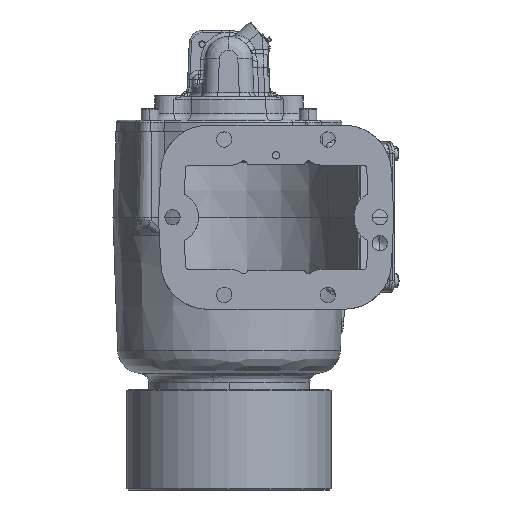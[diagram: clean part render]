
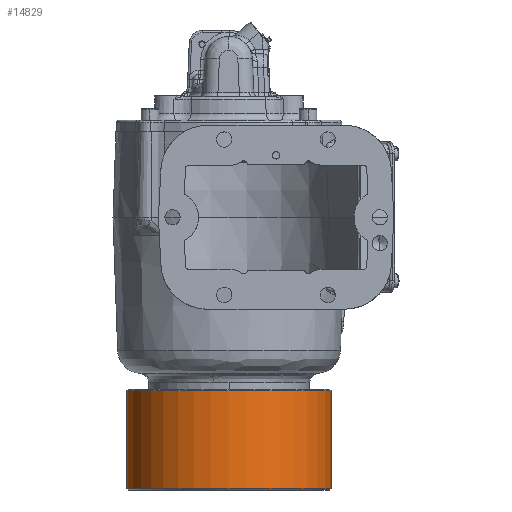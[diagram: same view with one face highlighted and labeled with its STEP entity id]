
A CAD part, front view. The second image highlights one B-rep face of the part: STEP entity #14829.
In plain terms, the highlighted cylindrical face has radius 68.821 mm (diameter 137.643 mm), a partial arc.
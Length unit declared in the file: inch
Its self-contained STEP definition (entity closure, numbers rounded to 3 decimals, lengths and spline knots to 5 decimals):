
#460 = ORIENTED_EDGE ( 'NONE', *, *, #167137, .T. ) ;
#5764 = CARTESIAN_POINT ( 'NONE',  ( -2.7095, 0., 2.67 ) ) ;
#13327 = DIRECTION ( 'NONE',  ( 0., 0., -1. ) ) ;
#14741 = ORIENTED_EDGE ( 'NONE', *, *, #198284, .F. ) ;
#14829 = ADVANCED_FACE ( 'NONE', ( #84058 ), #116883, .T. ) ;
#16229 = CARTESIAN_POINT ( 'NONE',  ( 0., 0., 2.67 ) ) ;
#16572 = DIRECTION ( 'NONE',  ( 1., 0., 0. ) ) ;
#24401 = EDGE_LOOP ( 'NONE', ( #14741, #201843, #460, #172359 ) ) ;
#32974 = CARTESIAN_POINT ( 'NONE',  ( 0., 0., 2.639 ) ) ;
#50427 = CARTESIAN_POINT ( 'NONE',  ( 2.7095, 0., 0.031 ) ) ;
#58339 = AXIS2_PLACEMENT_3D ( 'NONE', #16229, #82975, #150832 ) ;
#70570 = DIRECTION ( 'NONE',  ( 0., 0., 1. ) ) ;
#73552 = DIRECTION ( 'NONE',  ( 0., 0., -1. ) ) ;
#82975 = DIRECTION ( 'NONE',  ( 0., 0., -1. ) ) ;
#84058 = FACE_OUTER_BOUND ( 'NONE', #24401, .T. ) ;
#84851 = DIRECTION ( 'NONE',  ( 1., 0., 0. ) ) ;
#85405 = VERTEX_POINT ( 'NONE', #50427 ) ;
#85791 = CARTESIAN_POINT ( 'NONE',  ( -2.7095, 0., 0.031 ) ) ;
#88917 = LINE ( 'NONE', #5764, #183363 ) ;
#92685 = LINE ( 'NONE', #144136, #156318 ) ;
#107085 = CARTESIAN_POINT ( 'NONE',  ( -2.7095, 0., 2.639 ) ) ;
#116883 = CYLINDRICAL_SURFACE ( 'NONE', #58339, 2.7095 ) ;
#121913 = EDGE_CURVE ( 'NONE', #205695, #176891, #137479, .T. ) ;
#129962 = AXIS2_PLACEMENT_3D ( 'NONE', #32974, #13327, #16572 ) ;
#135920 = CARTESIAN_POINT ( 'NONE',  ( 2.7095, 0., 2.639 ) ) ;
#137479 = CIRCLE ( 'NONE', #129962, 2.7095 ) ;
#142933 = AXIS2_PLACEMENT_3D ( 'NONE', #152726, #70570, #84851 ) ;
#144136 = CARTESIAN_POINT ( 'NONE',  ( 2.7095, 0., 2.67 ) ) ;
#150832 = DIRECTION ( 'NONE',  ( -1., 0., 0. ) ) ;
#152726 = CARTESIAN_POINT ( 'NONE',  ( 0., 0., 0.031 ) ) ;
#153186 = EDGE_CURVE ( 'NONE', #184878, #85405, #192016, .T. ) ;
#156318 = VECTOR ( 'NONE', #159513, 39.37008 ) ;
#159513 = DIRECTION ( 'NONE',  ( 0., 0., -1. ) ) ;
#167137 = EDGE_CURVE ( 'NONE', #176891, #184878, #88917, .T. ) ;
#172359 = ORIENTED_EDGE ( 'NONE', *, *, #153186, .T. ) ;
#176891 = VERTEX_POINT ( 'NONE', #107085 ) ;
#183363 = VECTOR ( 'NONE', #73552, 39.37008 ) ;
#184878 = VERTEX_POINT ( 'NONE', #85791 ) ;
#192016 = CIRCLE ( 'NONE', #142933, 2.7095 ) ;
#198284 = EDGE_CURVE ( 'NONE', #205695, #85405, #92685, .T. ) ;
#201843 = ORIENTED_EDGE ( 'NONE', *, *, #121913, .T. ) ;
#205695 = VERTEX_POINT ( 'NONE', #135920 ) ;
